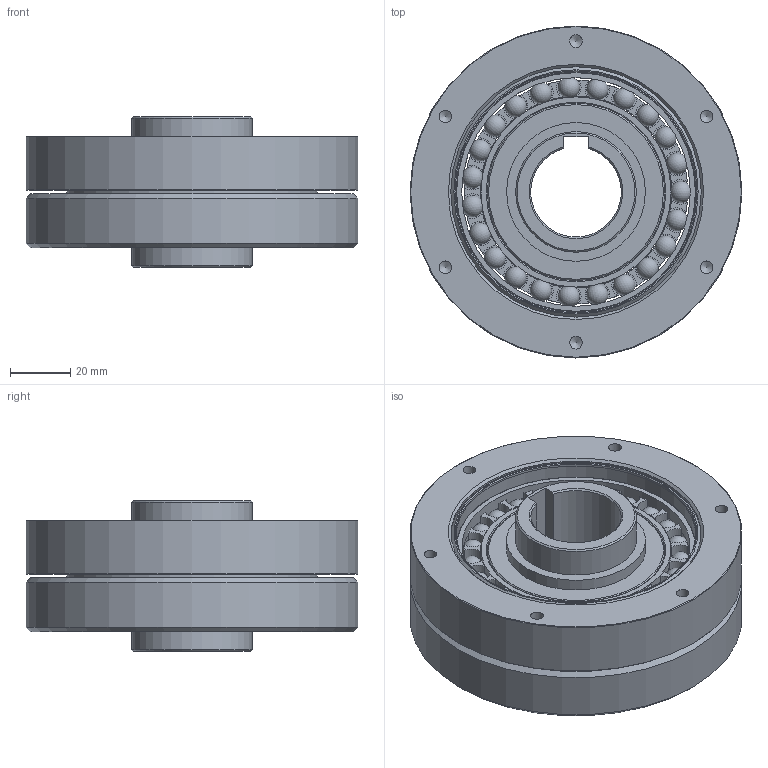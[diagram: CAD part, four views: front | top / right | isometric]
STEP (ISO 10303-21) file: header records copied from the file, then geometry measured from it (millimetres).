
FILE_DESCRIPTION (( 'STEP AP203' ), '1' );
FILE_NAME ('FDS-32-XXX-CJ.STEP', '2024-11-15T01:33:39', ( '微软用户' ), ( '微软中国' ), 'SwSTEP 2.0', 'SolidWorks 2016', '' );
FILE_SCHEMA (( 'CONFIG_CONTROL_DESIGN' ));
Length unit declared in the file: millimetre
Products named in the file (1): FDS-32-XXX-CJ
Bounding box: 110 x 110 x 50 mm (x, y, z)
Volume: 255520.1 mm3; surface area: 118643 mm2
Topology: 102 solids, 102 shells, 433 faces, 916 edges, 599 vertices
Faces by surface type: cylinder 224, plane 119, sphere 46, cone 30, torus 14
Full cylindrical faces by diameter (mm): 4.2 x12, 40 x2, 46 x2, 58.92 x1, 58.928 x2, 63.04 x4, 63.52 x2, 74.08 x2, 75.82 x4, 79.6 x1, 79.756 x2, 83 x3, 110 x2
Entity records: 10035 total; most frequent: DIRECTION 2014, CARTESIAN_POINT 1604, ORIENTED_EDGE 1348, AXIS2_PLACEMENT_3D 910, EDGE_CURVE 674, EDGE_LOOP 492, VERTEX_POINT 484, CIRCLE 476
